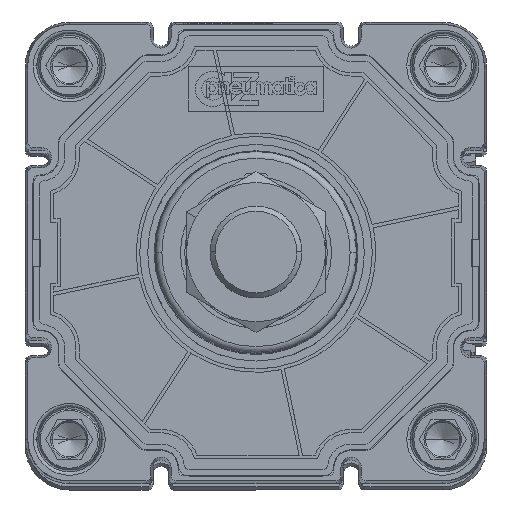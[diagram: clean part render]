
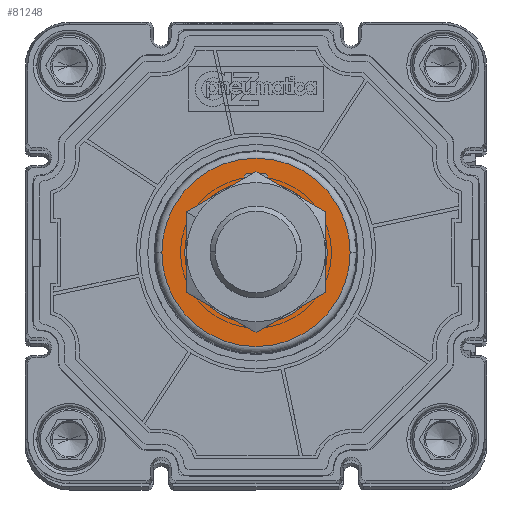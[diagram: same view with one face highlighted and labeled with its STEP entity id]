
A CAD part, top view. The second image highlights one B-rep face of the part: STEP entity #81248.
In plain terms, the highlighted planar face has unit normal (0, 0, 1) as drawn and (0, 0, -1) by its records, which use the part's own axes.
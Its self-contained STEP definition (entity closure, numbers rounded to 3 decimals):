
#368 = CIRCLE ( 'NONE', #3671, 21. ) ;
#3671 = AXIS2_PLACEMENT_3D ( 'NONE', #119741, #80238, #61136 ) ;
#3863 = DIRECTION ( 'NONE',  ( 1., 0., 0. ) ) ;
#4521 = CARTESIAN_POINT ( 'NONE',  ( -2.5, 22.2, -82.7 ) ) ;
#4843 = DIRECTION ( 'NONE',  ( 1., 0., 0. ) ) ;
#5894 = ORIENTED_EDGE ( 'NONE', *, *, #116957, .F. ) ;
#9570 = AXIS2_PLACEMENT_3D ( 'NONE', #102343, #112083, #74713 ) ;
#12996 = CARTESIAN_POINT ( 'NONE',  ( 3.5, 22.2, -82.7 ) ) ;
#13815 = DIRECTION ( 'NONE',  ( 0., 0., -1. ) ) ;
#19322 = LINE ( 'NONE', #22600, #93722 ) ;
#22600 = CARTESIAN_POINT ( 'NONE',  ( -3.5, 22.2, -82.7 ) ) ;
#24752 = CARTESIAN_POINT ( 'NONE',  ( 21., 0., -82.7 ) ) ;
#25134 = CARTESIAN_POINT ( 'NONE',  ( 0., 0., -82.7 ) ) ;
#26616 = EDGE_LOOP ( 'NONE', ( #121441, #103469 ) ) ;
#28005 = ORIENTED_EDGE ( 'NONE', *, *, #102386, .T. ) ;
#28140 = VERTEX_POINT ( 'NONE', #70807 ) ;
#28968 = EDGE_CURVE ( 'NONE', #124849, #28140, #19322, .T. ) ;
#29348 = CARTESIAN_POINT ( 'NONE',  ( 2.5, 23.2, -82.7 ) ) ;
#30622 = LINE ( 'NONE', #12996, #59450 ) ;
#31668 = LINE ( 'NONE', #103924, #106046 ) ;
#32047 = CARTESIAN_POINT ( 'NONE',  ( 0., 0., -82.7 ) ) ;
#32379 = CARTESIAN_POINT ( 'NONE',  ( 3.5, 22.2, -82.7 ) ) ;
#35613 = CARTESIAN_POINT ( 'NONE',  ( -21., 0., -82.7 ) ) ;
#37028 = CARTESIAN_POINT ( 'NONE',  ( 27.738, 0., -82.7 ) ) ;
#37719 = DIRECTION ( 'NONE',  ( 0., 0., 1. ) ) ;
#38113 = VERTEX_POINT ( 'NONE', #37028 ) ;
#38652 = VERTEX_POINT ( 'NONE', #115438 ) ;
#40439 = CARTESIAN_POINT ( 'NONE',  ( -3.5, 20.706, -82.7 ) ) ;
#44938 = DIRECTION ( 'NONE',  ( 1., 0., 0. ) ) ;
#48555 = EDGE_CURVE ( 'NONE', #50755, #124947, #368, .T. ) ;
#50755 = VERTEX_POINT ( 'NONE', #24752 ) ;
#52199 = DIRECTION ( 'NONE',  ( 0., 0., 1. ) ) ;
#54741 = DIRECTION ( 'NONE',  ( 0., 0., 1. ) ) ;
#56414 = DIRECTION ( 'NONE',  ( 1., 0., 0. ) ) ;
#59386 = ORIENTED_EDGE ( 'NONE', *, *, #28968, .F. ) ;
#59450 = VECTOR ( 'NONE', #100424, 1000. ) ;
#59910 = AXIS2_PLACEMENT_3D ( 'NONE', #4521, #13815, #71556 ) ;
#61136 = DIRECTION ( 'NONE',  ( 1., 0., 0. ) ) ;
#62799 = CARTESIAN_POINT ( 'NONE',  ( 0., 0., -82.7 ) ) ;
#62855 = DIRECTION ( 'NONE',  ( 0., 0., 1. ) ) ;
#63679 = CARTESIAN_POINT ( 'NONE',  ( 0., 0., -82.7 ) ) ;
#63842 = VERTEX_POINT ( 'NONE', #29348 ) ;
#65457 = AXIS2_PLACEMENT_3D ( 'NONE', #75918, #37719, #56414 ) ;
#69639 = EDGE_CURVE ( 'NONE', #98438, #124947, #30622, .T. ) ;
#70408 = CIRCLE ( 'NONE', #97638, 27.738 ) ;
#70807 = CARTESIAN_POINT ( 'NONE',  ( -3.5, 22.2, -82.7 ) ) ;
#71556 = DIRECTION ( 'NONE',  ( 1., 0., 0. ) ) ;
#73854 = DIRECTION ( 'NONE',  ( 1., 0., 0. ) ) ;
#74713 = DIRECTION ( 'NONE',  ( -1., 0., 0. ) ) ;
#75918 = CARTESIAN_POINT ( 'NONE',  ( 0., 27.738, -82.7 ) ) ;
#76464 = ORIENTED_EDGE ( 'NONE', *, *, #101526, .F. ) ;
#77914 = CIRCLE ( 'NONE', #103025, 21. ) ;
#80238 = DIRECTION ( 'NONE',  ( 0., 0., 1. ) ) ;
#80588 = CIRCLE ( 'NONE', #9570, 1. ) ;
#81158 = DIRECTION ( 'NONE',  ( 0., 0., 1. ) ) ;
#81248 = ADVANCED_FACE ( 'NONE', ( #83163, #99825 ), #85675, .F. ) ;
#82339 = VERTEX_POINT ( 'NONE', #112842 ) ;
#83163 = FACE_OUTER_BOUND ( 'NONE', #26616, .T. ) ;
#85675 = PLANE ( 'NONE',  #65457 ) ;
#87671 = EDGE_CURVE ( 'NONE', #124849, #97281, #77914, .T. ) ;
#90269 = AXIS2_PLACEMENT_3D ( 'NONE', #63679, #54741, #73854 ) ;
#90353 = ORIENTED_EDGE ( 'NONE', *, *, #87671, .T. ) ;
#91747 = DIRECTION ( 'NONE',  ( 0., 1., 0. ) ) ;
#93722 = VECTOR ( 'NONE', #91747, 1000. ) ;
#97281 = VERTEX_POINT ( 'NONE', #35613 ) ;
#97638 = AXIS2_PLACEMENT_3D ( 'NONE', #32047, #81158, #4843 ) ;
#97998 = CIRCLE ( 'NONE', #123570, 21. ) ;
#98438 = VERTEX_POINT ( 'NONE', #32379 ) ;
#99825 = FACE_BOUND ( 'NONE', #112826, .T. ) ;
#100424 = DIRECTION ( 'NONE',  ( 0., -1., 0. ) ) ;
#101064 = EDGE_CURVE ( 'NONE', #28140, #82339, #123027, .T. ) ;
#101526 = EDGE_CURVE ( 'NONE', #82339, #63842, #31668, .T. ) ;
#102343 = CARTESIAN_POINT ( 'NONE',  ( 2.5, 22.2, -82.7 ) ) ;
#102386 = EDGE_CURVE ( 'NONE', #97281, #50755, #97998, .T. ) ;
#102700 = ORIENTED_EDGE ( 'NONE', *, *, #101064, .F. ) ;
#103025 = AXIS2_PLACEMENT_3D ( 'NONE', #62799, #52199, #3863 ) ;
#103128 = EDGE_CURVE ( 'NONE', #38113, #38652, #70408, .T. ) ;
#103469 = ORIENTED_EDGE ( 'NONE', *, *, #107972, .F. ) ;
#103924 = CARTESIAN_POINT ( 'NONE',  ( 2.5, 23.2, -82.7 ) ) ;
#106046 = VECTOR ( 'NONE', #44938, 1000. ) ;
#107972 = EDGE_CURVE ( 'NONE', #38652, #38113, #112677, .T. ) ;
#112083 = DIRECTION ( 'NONE',  ( 0., 0., -1. ) ) ;
#112677 = CIRCLE ( 'NONE', #90269, 27.738 ) ;
#112826 = EDGE_LOOP ( 'NONE', ( #90353, #28005, #121688, #121638, #5894, #76464, #102700, #59386 ) ) ;
#112842 = CARTESIAN_POINT ( 'NONE',  ( -2.5, 23.2, -82.7 ) ) ;
#115438 = CARTESIAN_POINT ( 'NONE',  ( -27.738, 0., -82.7 ) ) ;
#116957 = EDGE_CURVE ( 'NONE', #63842, #98438, #80588, .T. ) ;
#119741 = CARTESIAN_POINT ( 'NONE',  ( 0., 0., -82.7 ) ) ;
#120610 = CARTESIAN_POINT ( 'NONE',  ( 3.5, 20.706, -82.7 ) ) ;
#121441 = ORIENTED_EDGE ( 'NONE', *, *, #103128, .F. ) ;
#121638 = ORIENTED_EDGE ( 'NONE', *, *, #69639, .F. ) ;
#121688 = ORIENTED_EDGE ( 'NONE', *, *, #48555, .T. ) ;
#122356 = DIRECTION ( 'NONE',  ( 1., 0., 0. ) ) ;
#123027 = CIRCLE ( 'NONE', #59910, 1. ) ;
#123570 = AXIS2_PLACEMENT_3D ( 'NONE', #25134, #62855, #122356 ) ;
#124849 = VERTEX_POINT ( 'NONE', #40439 ) ;
#124947 = VERTEX_POINT ( 'NONE', #120610 ) ;
